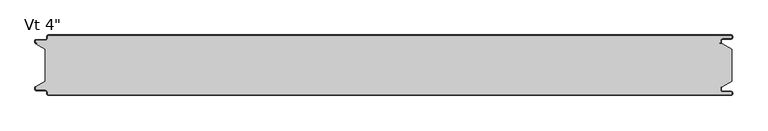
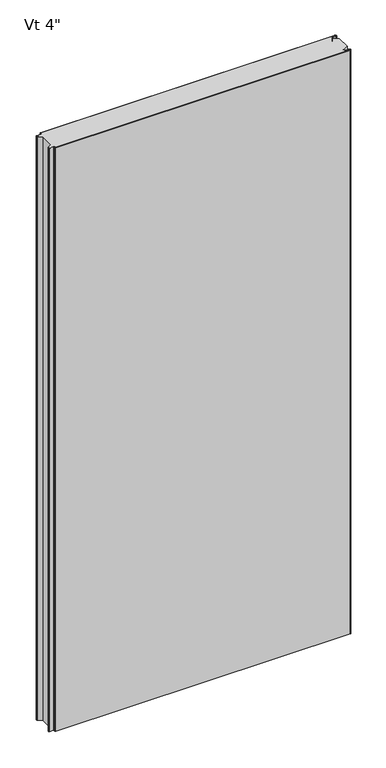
"""IFC4 building model written with IfcOpenShell, lengths in millimetres: plate geometry."""

from ifc_helpers import new_model, si_unit, frame, origin, place, context, project, spatial, polyline, circle_curve, source, transform, mapped, element, save
from ifc_brep_helpers import plane_surface, cylinder_surface, revolved_surface, advanced_brep


def plate_b617b0d5(model_context):
    return source(origin(), model_context, "Body", "AdvancedBrep", [
        advanced_brep(
        [(-572.4125501, -98.6227194, 2400.0), (-570.4352761, -100.5999935, 2400.0), (574.5475652, -100.6, 2400.0), (576.5248337, -98.6227315, 2400.0), (576.5248337, -97.5806329, 2400.0), (574.5475652, -95.6033643, 2400.0), (560.3591802, -95.6033643, 2400.0), (557.7713036, -93.0154878, 2400.0), (557.7713036, -88.6950697, 2400.0), (557.1628365, -88.1060762, 2400.0), (554.7857432, -88.1060762, 2400.0), (554.7857432, -87.1066023, 2400.0), (560.2280123, -87.1066023, 2400.0), (576.2625, -77.8490865, 2400.0), (576.2625, -23.7509179, 2400.0), (560.2280123, -14.4933977, 2400.0), (554.7857432, -14.4933977, 2400.0), (554.7857432, -13.4939238, 2400.0), (557.1628365, -13.4939238, 2400.0), (557.7713036, -12.9049303, 2400.0), (557.7713036, -8.5845122, 2400.0), (560.3591802, -5.9966357, 2400.0), (574.5475652, -5.9966357, 2400.0), (576.5248337, -4.0193671, 2400.0), (576.5248337, -2.9772685, 2400.0), (574.5475652, -1.0, 2400.0), (-570.4352761, -1.0, 2400.0), (-572.4125501, -2.9772806, 2400.0), (-572.4125501, -5.2691705, 2400.0), (-576.3898173, -9.2464377, 2400.0), (-591.9862417, -9.2464377, 2400.0), (-592.5741186, -9.8343146, 2400.0), (-592.5741186, -12.9058635, 2400.0), (-591.986242, -13.4937402, 2400.0), (-589.6312064, -13.4937402, 2400.0), (-589.6312064, -14.4937402, 2400.0), (-591.9207851, -14.4937402, 2400.0), (-576.2625, -23.7509135, 2400.0), (-576.2625, -77.8490865, 2400.0), (-591.9207851, -87.1062598, 2400.0), (-589.6312064, -87.1062598, 2400.0), (-589.6312064, -88.1062598, 2400.0), (-591.986242, -88.1062598, 2400.0), (-592.5741186, -88.6941365, 2400.0), (-592.5741186, -91.7656854, 2400.0), (-591.9862417, -92.3535623, 2400.0), (-576.3898173, -92.3535623, 2400.0), (-572.4125501, -96.3308295, 2400.0), (-572.4125501, -98.6227194, 0.0), (-572.4125501, -96.3308295, 0.0), (-576.3898173, -92.3535623, 0.0), (-591.9862417, -92.3535623, 0.0), (-592.5741186, -91.7656854, 0.0), (-592.5741186, -88.6941365, 0.0), (-591.986242, -88.1062598, 0.0), (-589.6312064, -88.1062598, 0.0), (-589.6312064, -87.1062598, 0.0), (-591.9207851, -87.1062598, 0.0), (-576.2625, -77.8490865, 0.0), (-576.2625, -23.7509179, 0.0), (-591.9207851, -14.4937402, 0.0), (-589.6312064, -14.4937402, 0.0), (-589.6312064, -13.4937402, 0.0), (-591.986242, -13.4937402, 0.0), (-592.5741186, -12.9058635, 0.0), (-592.5741186, -9.8343146, 0.0), (-591.9862417, -9.2464377, 0.0), (-576.3898173, -9.2464377, 0.0), (-572.4125501, -5.2691705, 0.0), (-572.4125501, -2.9772806, 0.0), (-570.4352761, -1.0000065, 0.0), (574.5475652, -1.0, 0.0), (576.5248337, -2.9772685, 0.0), (576.5248337, -4.0193671, 0.0), (574.5475652, -5.9966357, 0.0), (560.3591802, -5.9966357, 0.0), (557.7713036, -8.5845122, 0.0), (557.7713036, -12.9049303, 0.0), (557.1628365, -13.4939238, 0.0), (554.7857432, -13.4939238, 0.0), (554.7857432, -14.4933977, 0.0), (560.2280123, -14.4933977, 0.0), (576.2625, -23.7509135, 0.0), (576.2625, -77.8490865, 0.0), (560.2280123, -87.1066023, 0.0), (554.7857432, -87.1066023, 0.0), (554.7857432, -88.1060762, 0.0), (557.1628365, -88.1060762, 0.0), (557.7713036, -88.6950697, 0.0), (557.7713036, -93.0154878, 0.0), (560.3591802, -95.6033643, 0.0), (574.5475652, -95.6033643, 0.0), (576.5248337, -97.5806329, 0.0), (576.5248337, -98.6227315, 0.0), (574.5475652, -100.6, 0.0), (-570.4352761, -100.6, 0.0)],
        [
            (0, 1, circle_curve(frame((-570.4352761, -98.6227194, 2400.0), z_axis=(0.0, 0.0, 1.0), x_axis=(-1.0, 0.0, 0.0)), 1.977274)),
            (1, 2),
            (2, 3, circle_curve(frame((574.5475652, -98.6227315, 2400.0), z_axis=(0.0, 0.0, 1.0), x_axis=(-1.0, 0.0, 0.0)), 1.9772685)),
            (3, 4),
            (4, 5, circle_curve(frame((574.5475652, -97.5806329, 2400.0), z_axis=(0.0, 0.0, 1.0), x_axis=(-1.0, 0.0, 0.0)), 1.9772685)),
            (5, 6),
            (6, 7, circle_curve(frame((560.3591802, -93.0154878, 2400.0), z_axis=(0.0, 0.0, -1.0), x_axis=(-1.0, 0.0, 0.0)), 2.5878765)),
            (7, 8),
            (8, 9, circle_curve(frame((557.1819985, -88.6950697, 2400.0), z_axis=(0.0, 0.0, 1.0), x_axis=(-1.0, 0.0, 0.0)), 0.5893051)),
            (9, 10),
            (10, 11),
            (11, 12),
            (12, 13),
            (13, 14),
            (14, 15),
            (15, 16),
            (16, 17),
            (17, 18),
            (18, 19, circle_curve(frame((557.1819985, -12.9049303, 2400.0), z_axis=(0.0, 0.0, 1.0), x_axis=(0.0, 1.0, 0.0)), 0.5893051)),
            (19, 20),
            (20, 21, circle_curve(frame((560.3591802, -8.5845122, 2400.0), z_axis=(0.0, 0.0, -1.0), x_axis=(0.0, 1.0, 0.0)), 2.5878765)),
            (21, 22),
            (22, 23, circle_curve(frame((574.5475652, -4.0193671, 2400.0), z_axis=(0.0, 0.0, 1.0), x_axis=(0.0, 1.0, 0.0)), 1.9772685)),
            (23, 24),
            (24, 25, circle_curve(frame((574.5475652, -2.9772685, 2400.0), z_axis=(0.0, 0.0, 1.0), x_axis=(0.0, 1.0, 0.0)), 1.9772685)),
            (25, 26),
            (26, 27, circle_curve(frame((-570.4352761, -2.9772806, 2400.0), z_axis=(0.0, 0.0, 1.0), x_axis=(0.0, 1.0, 0.0)), 1.977274)),
            (27, 28),
            (28, 29, circle_curve(frame((-576.3898173, -5.2691705, 2400.0), z_axis=(0.0, 0.0, -1.0), x_axis=(0.0, 1.0, 0.0)), 3.9772671)),
            (29, 30),
            (30, 31, circle_curve(frame((-591.9862417, -9.8343146, 2400.0), z_axis=(0.0, 0.0, 1.0), x_axis=(0.0, 1.0, 0.0)), 0.5878769)),
            (31, 32),
            (32, 33, circle_curve(frame((-591.986242, -12.9058635, 2400.0), z_axis=(0.0, 0.0, 1.0), x_axis=(0.0, 1.0, 0.0)), 0.5878766)),
            (33, 34),
            (34, 35),
            (35, 36),
            (36, 37),
            (37, 38),
            (38, 39),
            (39, 40),
            (40, 41),
            (41, 42),
            (42, 43, circle_curve(frame((-591.986242, -88.6941365, 2400.0), z_axis=(0.0, 0.0, 1.0), x_axis=(-1.0, 0.0, 0.0)), 0.5878766)),
            (43, 44),
            (44, 45, circle_curve(frame((-591.9862417, -91.7656854, 2400.0), z_axis=(0.0, 0.0, 1.0), x_axis=(-1.0, 0.0, 0.0)), 0.5878769)),
            (45, 46),
            (46, 47, circle_curve(frame((-576.3898173, -96.3308295, 2400.0), z_axis=(0.0, 0.0, -1.0), x_axis=(-1.0, 0.0, 0.0)), 3.9772671)),
            (47, 0),
            (48, 49),
            (49, 50, circle_curve(frame((-576.3898173, -96.3308295, 0.0), z_axis=(0.0, 0.0, 1.0), x_axis=(-1.0, 0.0, 0.0)), 3.9772671)),
            (50, 51),
            (51, 52, circle_curve(frame((-591.9862417, -91.7656854, 0.0), z_axis=(0.0, 0.0, -1.0), x_axis=(-1.0, 0.0, 0.0)), 0.5878769)),
            (52, 53),
            (53, 54, circle_curve(frame((-591.986242, -88.6941365, 0.0), z_axis=(0.0, 0.0, -1.0), x_axis=(-1.0, 0.0, 0.0)), 0.5878766)),
            (54, 55),
            (55, 56),
            (56, 57),
            (57, 58),
            (58, 59),
            (59, 60),
            (60, 61),
            (61, 62),
            (62, 63),
            (63, 64, circle_curve(frame((-591.986242, -12.9058635, 0.0), z_axis=(0.0, 0.0, -1.0), x_axis=(0.0, 1.0, 0.0)), 0.5878766)),
            (64, 65),
            (65, 66, circle_curve(frame((-591.9862417, -9.8343146, 0.0), z_axis=(0.0, 0.0, -1.0), x_axis=(0.0, 1.0, 0.0)), 0.5878769)),
            (66, 67),
            (67, 68, circle_curve(frame((-576.3898173, -5.2691705, 0.0), z_axis=(0.0, 0.0, 1.0), x_axis=(0.0, 1.0, 0.0)), 3.9772671)),
            (68, 69),
            (69, 70, circle_curve(frame((-570.4352761, -2.9772806, 0.0), z_axis=(0.0, 0.0, -1.0), x_axis=(0.0, 1.0, 0.0)), 1.977274)),
            (70, 71),
            (71, 72, circle_curve(frame((574.5475652, -2.9772685, 0.0), z_axis=(0.0, 0.0, -1.0), x_axis=(0.0, 1.0, 0.0)), 1.9772685)),
            (72, 73),
            (73, 74, circle_curve(frame((574.5475652, -4.0193671, 0.0), z_axis=(0.0, 0.0, -1.0), x_axis=(0.0, 1.0, 0.0)), 1.9772685)),
            (74, 75),
            (75, 76, circle_curve(frame((560.3591802, -8.5845122, 0.0), z_axis=(0.0, 0.0, 1.0), x_axis=(0.0, 1.0, 0.0)), 2.5878765)),
            (76, 77),
            (77, 78, circle_curve(frame((557.1819985, -12.9049303, 0.0), z_axis=(0.0, 0.0, -1.0), x_axis=(0.0, 1.0, 0.0)), 0.5893051)),
            (78, 79),
            (79, 80),
            (80, 81),
            (81, 82),
            (82, 83),
            (83, 84),
            (84, 85),
            (85, 86),
            (86, 87),
            (87, 88, circle_curve(frame((557.1819985, -88.6950697, 0.0), z_axis=(0.0, 0.0, -1.0), x_axis=(-1.0, 0.0, 0.0)), 0.5893051)),
            (88, 89),
            (89, 90, circle_curve(frame((560.3591802, -93.0154878, 0.0), z_axis=(0.0, 0.0, 1.0), x_axis=(-1.0, 0.0, 0.0)), 2.5878765)),
            (90, 91),
            (91, 92, circle_curve(frame((574.5475652, -97.5806329, 0.0), z_axis=(0.0, 0.0, -1.0), x_axis=(-1.0, 0.0, 0.0)), 1.9772685)),
            (92, 93),
            (93, 94, circle_curve(frame((574.5475652, -98.6227315, 0.0), z_axis=(0.0, 0.0, -1.0), x_axis=(-1.0, 0.0, 0.0)), 1.9772685)),
            (94, 95),
            (95, 48, circle_curve(frame((-570.4352761, -98.6227194, 0.0), z_axis=(0.0, 0.0, -1.0), x_axis=(-1.0, 0.0, 0.0)), 1.977274)),
            (37, 59),
            (58, 38),
            (13, 83),
            (82, 14),
            (47, 49),
            (48, 0),
            (46, 50),
            (45, 51),
            (44, 52),
            (43, 53),
            (42, 54),
            (41, 55),
            (40, 56),
            (39, 57),
            (12, 84),
            (11, 85),
            (10, 86),
            (9, 87),
            (8, 88),
            (7, 89),
            (6, 90),
            (5, 91),
            (4, 92),
            (3, 93),
            (2, 94),
            (1, 95),
            (26, 70),
            (69, 27),
            (25, 71),
            (24, 72),
            (23, 73),
            (22, 74),
            (21, 75),
            (20, 76),
            (19, 77),
            (18, 78),
            (17, 79),
            (16, 80),
            (15, 81),
            (36, 60),
            (35, 61),
            (34, 62),
            (33, 63),
            (32, 64),
            (31, 65),
            (30, 66),
            (29, 67),
            (28, 68),
        ],
        [
            plane_surface(frame((0.0, -100.6, 2400.0), z_axis=(0.0, 0.0, 1.0), x_axis=(0.0, -1.0, 0.0))),
            plane_surface(frame((0.0, -100.6, 0.0), z_axis=(0.0, 0.0, -1.0), x_axis=(0.0, -1.0, 0.0))),
            plane_surface(frame((-576.2625, -77.8490865, 2400.0), z_axis=(-1.0, 0.0, 0.0), x_axis=(0.0, 0.0, -1.0))),
            plane_surface(frame((576.2625, -23.7509179, 2400.0), z_axis=(1.0, 0.0, 0.0), x_axis=(0.0, 0.0, -1.0))),
            plane_surface(frame((-572.4125501, -98.6227194, 2400.0), z_axis=(-1.0, 0.0, 0.0), x_axis=(0.0, 0.0, -1.0))),
            revolved_surface(polyline([(-580.3670844, -96.3308295, 0.0), (-580.3670844, -96.3308295, 2400.0)]), (-576.3898173, -96.3308295, 2400.0), (0.0, 0.0, -1.0)),
            plane_surface(frame((-576.3898173, -92.3535623, 2400.0), z_axis=(0.0, -1.0, 0.0), x_axis=(0.0, 0.0, -1.0))),
            cylinder_surface(frame((-591.9862417, -91.7656854, 2400.0), z_axis=(0.0, 0.0, 1.0), x_axis=(-1.0, 0.0, 0.0)), 0.5878769),
            plane_surface(frame((-592.5741186, -91.7656854, 2400.0), z_axis=(-1.0, 0.0, 0.0), x_axis=(0.0, 0.0, -1.0))),
            cylinder_surface(frame((-591.986242, -88.6941365, 2400.0), z_axis=(0.0, 0.0, 1.0), x_axis=(-1.0, 0.0, 0.0)), 0.5878766),
            plane_surface(frame((-591.986242, -88.1062598, 2400.0), z_axis=(0.0, 1.0, 0.0), x_axis=(0.0, 0.0, -1.0))),
            plane_surface(frame((-589.6312064, -88.1062598, 2400.0), z_axis=(-1.0, 0.0, 0.0), x_axis=(0.0, 0.0, -1.0))),
            plane_surface(frame((-589.6312064, -87.1062598, 2400.0), z_axis=(0.0, -1.0, 0.0), x_axis=(0.0, 0.0, -1.0))),
            plane_surface(frame((-591.9207851, -87.1062598, 2400.0), z_axis=(-0.5089147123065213, 0.860816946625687, 0.0), x_axis=(0.0, 0.0, -1.0))),
            plane_surface(frame((576.2625, -77.8490865, 2400.0), z_axis=(0.500000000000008, -0.866025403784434, 0.0), x_axis=(0.0, 0.0, -1.0))),
            plane_surface(frame((560.2280123, -87.1066023, 2400.0), z_axis=(0.0, -1.0, 0.0), x_axis=(0.0, 0.0, -1.0))),
            plane_surface(frame((554.7857432, -87.1066023, 2400.0), z_axis=(1.0, 0.0, 0.0), x_axis=(0.0, 0.0, -1.0))),
            plane_surface(frame((554.7857432, -88.1060762, 2400.0), z_axis=(0.0, 1.0, 0.0), x_axis=(0.0, 0.0, -1.0))),
            cylinder_surface(frame((557.1819985, -88.6950697, 2400.0), z_axis=(0.0, 0.0, 1.0), x_axis=(-1.0, 0.0, 0.0)), 0.5893051),
            plane_surface(frame((557.7713036, -88.6950697, 2400.0), z_axis=(1.0, 0.0, 0.0), x_axis=(0.0, 0.0, -1.0))),
            revolved_surface(polyline([(557.7713037, -93.0154878, 0.0), (557.7713037, -93.0154878, 2400.0)]), (560.3591802, -93.0154878, 2400.0), (0.0, 0.0, -1.0)),
            plane_surface(frame((560.3591802, -95.6033643, 2400.0), z_axis=(0.0, 1.0, 0.0), x_axis=(0.0, 0.0, -1.0))),
            cylinder_surface(frame((574.5475652, -97.5806329, 2400.0), z_axis=(0.0, 0.0, 1.0), x_axis=(-1.0, 0.0, 0.0)), 1.9772685),
            plane_surface(frame((576.5248337, -97.5806329, 2400.0), z_axis=(1.0, 0.0, 0.0), x_axis=(0.0, 0.0, -1.0))),
            cylinder_surface(frame((574.5475652, -98.6227315, 2400.0), z_axis=(0.0, 0.0, 1.0), x_axis=(-1.0, 0.0, 0.0)), 1.9772685),
            plane_surface(frame((574.5475652, -100.6, 2400.0), z_axis=(0.0, -1.0, 0.0), x_axis=(0.0, 0.0, -1.0))),
            cylinder_surface(frame((-570.4352761, -98.6227194, 2400.0), z_axis=(0.0, 0.0, 1.0), x_axis=(-1.0, 0.0, 0.0)), 1.977274),
            cylinder_surface(frame((-570.4352761, -2.9772806, 2400.0), z_axis=(0.0, 0.0, 1.0), x_axis=(0.0, 1.0, 0.0)), 1.977274),
            plane_surface(frame((-570.4352761, -1.0, 2400.0), z_axis=(0.0, 1.0, 0.0), x_axis=(0.0, 0.0, -1.0))),
            cylinder_surface(frame((574.5475652, -2.9772685, 2400.0), z_axis=(0.0, 0.0, 1.0), x_axis=(0.0, 1.0, 0.0)), 1.9772685),
            plane_surface(frame((576.5248337, -2.9772685, 2400.0), z_axis=(1.0, 0.0, 0.0), x_axis=(0.0, 0.0, -1.0))),
            cylinder_surface(frame((574.5475652, -4.0193671, 2400.0), z_axis=(0.0, 0.0, 1.0), x_axis=(0.0, 1.0, 0.0)), 1.9772685),
            plane_surface(frame((574.5475652, -5.9966357, 2400.0), z_axis=(0.0, -1.0, 0.0), x_axis=(0.0, 0.0, -1.0))),
            revolved_surface(polyline([(560.3591802, -5.996635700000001, 0.0), (560.3591802, -5.996635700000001, 2400.0)]), (560.3591802, -8.5845122, 2400.0), (0.0, 0.0, -1.0)),
            plane_surface(frame((557.7713036, -8.5845122, 2400.0), z_axis=(1.0, 0.0, 0.0), x_axis=(0.0, 0.0, -1.0))),
            cylinder_surface(frame((557.1819985, -12.9049303, 2400.0), z_axis=(0.0, 0.0, 1.0), x_axis=(0.0, 1.0, 0.0)), 0.5893051),
            plane_surface(frame((557.1628365, -13.4939238, 2400.0), z_axis=(0.0, -1.0, 0.0), x_axis=(0.0, 0.0, -1.0))),
            plane_surface(frame((554.7857432, -13.4939238, 2400.0), z_axis=(1.0, 0.0, 0.0), x_axis=(0.0, 0.0, -1.0))),
            plane_surface(frame((554.7857432, -14.4933977, 2400.0), z_axis=(0.0, 1.0, 0.0), x_axis=(0.0, 0.0, -1.0))),
            plane_surface(frame((560.2280123, -14.4933977, 2400.0), z_axis=(0.5000000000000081, 0.866025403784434, 0.0), x_axis=(0.0, 0.0, -1.0))),
            plane_surface(frame((-576.2625, -23.7509135, 2400.0), z_axis=(-0.5089147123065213, -0.860816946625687, 0.0), x_axis=(0.0, 0.0, -1.0))),
            plane_surface(frame((-591.9207851, -14.4937402, 2400.0), z_axis=(0.0, 1.0, 0.0), x_axis=(0.0, 0.0, -1.0))),
            plane_surface(frame((-589.6312064, -14.4937402, 2400.0), z_axis=(-1.0, 0.0, 0.0), x_axis=(0.0, 0.0, -1.0))),
            plane_surface(frame((-589.6312064, -13.4937402, 2400.0), z_axis=(0.0, -1.0, 0.0), x_axis=(0.0, 0.0, -1.0))),
            cylinder_surface(frame((-591.986242, -12.9058635, 2400.0), z_axis=(0.0, 0.0, 1.0), x_axis=(0.0, 1.0, 0.0)), 0.5878766),
            plane_surface(frame((-592.5741186, -12.9058635, 2400.0), z_axis=(-1.0, 0.0, 0.0), x_axis=(0.0, 0.0, -1.0))),
            cylinder_surface(frame((-591.9862417, -9.8343146, 2400.0), z_axis=(0.0, 0.0, 1.0), x_axis=(0.0, 1.0, 0.0)), 0.5878769),
            plane_surface(frame((-591.9862417, -9.2464377, 2400.0), z_axis=(0.0, 1.0, 0.0), x_axis=(0.0, 0.0, -1.0))),
            revolved_surface(polyline([(-576.3898173, -1.2919034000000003, 0.0), (-576.3898173, -1.2919034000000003, 2400.0)]), (-576.3898173, -5.2691705, 2400.0), (0.0, 0.0, -1.0)),
            plane_surface(frame((-572.4125501, -5.2691705, 2400.0), z_axis=(-1.0, 0.0, 0.0), x_axis=(0.0, 0.0, -1.0))),
        ],
        [
            (0, [[1, 2, 3, 4, 5, 6, 7, 8, 9, 10, 11, 12, 13, 14, 15, 16, 17, 18, 19, 20, 21, 22, 23, 24, 25, 26, 27, 28, 29, 30, 31, 32, 33, 34, 35, 36, 37, 38, 39, 40, 41, 42, 43, 44, 45, 46, 47, 48]]),
            (1, [[49, 50, 51, 52, 53, 54, 55, 56, 57, 58, 59, 60, 61, 62, 63, 64, 65, 66, 67, 68, 69, 70, 71, 72, 73, 74, 75, 76, 77, 78, 79, 80, 81, 82, 83, 84, 85, 86, 87, 88, 89, 90, 91, 92, 93, 94, 95, 96]]),
            (2, [[97, -59, 98, -38]]),
            (3, [[99, -83, 100, -14]]),
            (4, [[101, -49, 102, -48]]),
            (5, [[103, -50, -101, -47]]),
            (6, [[104, -51, -103, -46]]),
            (7, [[105, -52, -104, -45]]),
            (8, [[106, -53, -105, -44]]),
            (9, [[107, -54, -106, -43]]),
            (10, [[108, -55, -107, -42]]),
            (11, [[109, -56, -108, -41]]),
            (12, [[110, -57, -109, -40]]),
            (13, [[-98, -58, -110, -39]]),
            (14, [[111, -84, -99, -13]]),
            (15, [[112, -85, -111, -12]]),
            (16, [[113, -86, -112, -11]]),
            (17, [[114, -87, -113, -10]]),
            (18, [[115, -88, -114, -9]]),
            (19, [[116, -89, -115, -8]]),
            (20, [[117, -90, -116, -7]]),
            (21, [[118, -91, -117, -6]]),
            (22, [[119, -92, -118, -5]]),
            (23, [[120, -93, -119, -4]]),
            (24, [[121, -94, -120, -3]]),
            (25, [[122, -95, -121, -2]]),
            (26, [[-102, -96, -122, -1]]),
            (27, [[123, -70, 124, -27]]),
            (28, [[125, -71, -123, -26]]),
            (29, [[126, -72, -125, -25]]),
            (30, [[127, -73, -126, -24]]),
            (31, [[128, -74, -127, -23]]),
            (32, [[129, -75, -128, -22]]),
            (33, [[130, -76, -129, -21]]),
            (34, [[131, -77, -130, -20]]),
            (35, [[132, -78, -131, -19]]),
            (36, [[133, -79, -132, -18]]),
            (37, [[134, -80, -133, -17]]),
            (38, [[135, -81, -134, -16]]),
            (39, [[-100, -82, -135, -15]]),
            (40, [[136, -60, -97, -37]]),
            (41, [[137, -61, -136, -36]]),
            (42, [[138, -62, -137, -35]]),
            (43, [[139, -63, -138, -34]]),
            (44, [[140, -64, -139, -33]]),
            (45, [[141, -65, -140, -32]]),
            (46, [[142, -66, -141, -31]]),
            (47, [[143, -67, -142, -30]]),
            (48, [[144, -68, -143, -29]]),
            (49, [[-124, -69, -144, -28]]),
        ],
    ),
        advanced_brep(
        [(-572.4123937, -2.9776189, 2400.0), (-570.4354837, -1.0007088, 2400.0), (574.550337, -1.0007088, 2400.0), (576.5262182, -2.97659, 2400.0), (576.5262182, -4.019022, 2400.0), (574.5482568, -5.9969834, 2400.0), (560.3590971, -5.9969834, 2400.0), (557.7713971, -8.5846834, 2400.0), (557.7713971, -12.9049158, 2400.0), (557.1628599, -13.4939528, 2400.0), (554.7857432, -13.4939528, 2400.0), (554.7857432, -14.4933977, 2400.0), (557.1304042, -14.4933977, 2400.0), (558.7713036, -12.9049303, 2400.0), (558.7713036, -8.5845122, 2400.0), (560.3591801, -6.9966356, 2400.0), (574.5475652, -6.9966356, 2400.0), (577.5248337, -4.0193671, 2400.0), (577.5248337, -2.9772685, 2400.0), (574.5475652, 0.0, 2400.0), (-570.4352789, 0.0, 2400.0), (-573.4125474, -2.977286, 2400.0), (-573.4125474, -5.2691698, 2400.0), (-576.3898159, -8.2464384, 2400.0), (-591.9862419, -8.2464384, 2400.0), (-593.5741185, -9.8343149, 2400.0), (-593.5741185, -12.9058636, 2400.0), (-591.9862419, -14.4937401, 2400.0), (-589.6312064, -14.4937401, 2400.0), (-589.6312064, -13.4937365, 2400.0), (-591.9862374, -13.4937365, 2400.0), (-592.5741086, -12.9058654, 2400.0), (-592.5741086, -9.834334, 2400.0), (-591.9862514, -9.2464768, 2400.0), (-576.3897391, -9.2464768, 2400.0), (-572.4123937, -5.2691315, 2400.0), (-572.4123937, -2.9776189, 0.0), (-572.4123937, -5.2691315, 0.0), (-576.3897391, -9.2464768, 0.0), (-591.9862514, -9.2464768, 0.0), (-592.5741086, -9.834334, 0.0), (-592.5741086, -12.9058654, 0.0), (-591.9862374, -13.4937365, 0.0), (-589.6312064, -13.4937365, 0.0), (-589.6312064, -14.4937401, 0.0), (-591.9862419, -14.4937401, 0.0), (-593.5741185, -12.9058636, 0.0), (-593.5741185, -9.8343149, 0.0), (-591.9862419, -8.2464384, 0.0), (-576.3898159, -8.2464384, 0.0), (-573.4125474, -5.2691698, 0.0), (-573.4125474, -2.977286, 0.0), (-570.4352789, -1.75e-05, 0.0), (574.5475652, 0.0, 0.0), (577.5248337, -2.9772685, 0.0), (577.5248337, -4.0193671, 0.0), (574.5475652, -6.9966356, 0.0), (560.3591801, -6.9966356, 0.0), (558.7713036, -8.5845122, 0.0), (558.7713036, -12.9049303, 0.0), (557.1304042, -14.4933977, 0.0), (554.7857432, -14.4933977, 0.0), (554.7857432, -13.4939528, 0.0), (557.1628599, -13.4939528, 0.0), (557.7713971, -12.9049158, 0.0), (557.7713971, -8.5846834, 0.0), (560.3590971, -5.9969834, 0.0), (574.5482568, -5.9969834, 0.0), (576.5262182, -4.019022, 0.0), (576.5262182, -2.97659, 0.0), (574.550337, -1.0007088, 0.0), (-570.4354837, -1.0007088, 0.0)],
        [
            (0, 1, circle_curve(frame((-570.4354837, -2.9776189, 2400.0), z_axis=(0.0, 0.0, -1.0), x_axis=(0.0, 1.0, 0.0)), 1.9769101)),
            (1, 2),
            (2, 3, circle_curve(frame((574.550337, -2.97659, 2400.0), z_axis=(0.0, 0.0, -1.0), x_axis=(0.0, 1.0, 0.0)), 1.9758812)),
            (3, 4),
            (4, 5, circle_curve(frame((574.5482568, -4.019022, 2400.0), z_axis=(0.0, 0.0, -1.0), x_axis=(0.0, 1.0, 0.0)), 1.9779614)),
            (5, 6),
            (6, 7, circle_curve(frame((560.3590971, -8.5846834, 2400.0), z_axis=(0.0, 0.0, 1.0), x_axis=(0.0, 1.0, 0.0)), 2.5877)),
            (7, 8),
            (8, 9, circle_curve(frame((557.1820477, -12.9049158, 2400.0), z_axis=(0.0, 0.0, -1.0), x_axis=(0.0, 1.0, 0.0)), 0.5893495)),
            (9, 10),
            (10, 11),
            (11, 12),
            (12, 13, circle_curve(frame((557.1819985, -12.9049303, 2400.0), z_axis=(0.0, 0.0, 1.0), x_axis=(0.0, 1.0, 0.0)), 1.5893051)),
            (13, 14),
            (14, 15, circle_curve(frame((560.3591801, -8.5845122, 2400.0), z_axis=(0.0, 0.0, -1.0), x_axis=(0.0, 1.0, 0.0)), 1.5878765)),
            (15, 16),
            (16, 17, circle_curve(frame((574.5475652, -4.0193671, 2400.0), z_axis=(0.0, 0.0, 1.0), x_axis=(0.0, 1.0, 0.0)), 2.9772685)),
            (17, 18),
            (18, 19, circle_curve(frame((574.5475652, -2.9772685, 2400.0), z_axis=(0.0, 0.0, 1.0), x_axis=(0.0, 1.0, 0.0)), 2.9772685)),
            (19, 20),
            (20, 21, circle_curve(frame((-570.4352789, -2.977286, 2400.0), z_axis=(0.0, 0.0, 1.0), x_axis=(0.0, 1.0, 0.0)), 2.9772685)),
            (21, 22),
            (22, 23, circle_curve(frame((-576.3898159, -5.2691698, 2400.0), z_axis=(0.0, 0.0, -1.0), x_axis=(0.0, 1.0, 0.0)), 2.9772685)),
            (23, 24),
            (24, 25, circle_curve(frame((-591.9862419, -9.8343149, 2400.0), z_axis=(0.0, 0.0, 1.0), x_axis=(0.0, 1.0, 0.0)), 1.5878765)),
            (25, 26),
            (26, 27, circle_curve(frame((-591.9862419, -12.9058636, 2400.0), z_axis=(0.0, 0.0, 1.0), x_axis=(0.0, 1.0, 0.0)), 1.5878765)),
            (27, 28),
            (28, 29),
            (29, 30),
            (30, 31, circle_curve(frame((-591.9862374, -12.9058654, 2400.0), z_axis=(0.0, 0.0, -1.0), x_axis=(0.0, 1.0, 0.0)), 0.5878711)),
            (31, 32),
            (32, 33, circle_curve(frame((-591.9862514, -9.834334, 2400.0), z_axis=(0.0, 0.0, -1.0), x_axis=(0.0, 1.0, 0.0)), 0.5878572)),
            (33, 34),
            (34, 35, circle_curve(frame((-576.3897391, -5.2691315, 2400.0), z_axis=(0.0, 0.0, 1.0), x_axis=(0.0, 1.0, 0.0)), 3.9773454)),
            (35, 0),
            (36, 37),
            (37, 38, circle_curve(frame((-576.3897391, -5.2691315, 0.0), z_axis=(0.0, 0.0, -1.0), x_axis=(0.0, 1.0, 0.0)), 3.9773454)),
            (38, 39),
            (39, 40, circle_curve(frame((-591.9862514, -9.834334, 0.0), z_axis=(0.0, 0.0, 1.0), x_axis=(0.0, 1.0, 0.0)), 0.5878572)),
            (40, 41),
            (41, 42, circle_curve(frame((-591.9862374, -12.9058654, 0.0), z_axis=(0.0, 0.0, 1.0), x_axis=(0.0, 1.0, 0.0)), 0.5878711)),
            (42, 43),
            (43, 44),
            (44, 45),
            (45, 46, circle_curve(frame((-591.9862419, -12.9058636, 0.0), z_axis=(0.0, 0.0, -1.0), x_axis=(0.0, 1.0, 0.0)), 1.5878765)),
            (46, 47),
            (47, 48, circle_curve(frame((-591.9862419, -9.8343149, 0.0), z_axis=(0.0, 0.0, -1.0), x_axis=(0.0, 1.0, 0.0)), 1.5878765)),
            (48, 49),
            (49, 50, circle_curve(frame((-576.3898159, -5.2691698, 0.0), z_axis=(0.0, 0.0, 1.0), x_axis=(0.0, 1.0, 0.0)), 2.9772685)),
            (50, 51),
            (51, 52, circle_curve(frame((-570.4352789, -2.977286, 0.0), z_axis=(0.0, 0.0, -1.0), x_axis=(0.0, 1.0, 0.0)), 2.9772685)),
            (52, 53),
            (53, 54, circle_curve(frame((574.5475652, -2.9772685, 0.0), z_axis=(0.0, 0.0, -1.0), x_axis=(0.0, 1.0, 0.0)), 2.9772685)),
            (54, 55),
            (55, 56, circle_curve(frame((574.5475652, -4.0193671, 0.0), z_axis=(0.0, 0.0, -1.0), x_axis=(0.0, 1.0, 0.0)), 2.9772685)),
            (56, 57),
            (57, 58, circle_curve(frame((560.3591801, -8.5845122, 0.0), z_axis=(0.0, 0.0, 1.0), x_axis=(0.0, 1.0, 0.0)), 1.5878765)),
            (58, 59),
            (59, 60, circle_curve(frame((557.1819985, -12.9049303, 0.0), z_axis=(0.0, 0.0, -1.0), x_axis=(0.0, 1.0, 0.0)), 1.5893051)),
            (60, 61),
            (61, 62),
            (62, 63),
            (63, 64, circle_curve(frame((557.1820477, -12.9049158, 0.0), z_axis=(0.0, 0.0, 1.0), x_axis=(0.0, 1.0, 0.0)), 0.5893495)),
            (64, 65),
            (65, 66, circle_curve(frame((560.3590971, -8.5846834, 0.0), z_axis=(0.0, 0.0, -1.0), x_axis=(0.0, 1.0, 0.0)), 2.5877)),
            (66, 67),
            (67, 68, circle_curve(frame((574.5482568, -4.019022, 0.0), z_axis=(0.0, 0.0, 1.0), x_axis=(0.0, 1.0, 0.0)), 1.9779614)),
            (68, 69),
            (69, 70, circle_curve(frame((574.550337, -2.97659, 0.0), z_axis=(0.0, 0.0, 1.0), x_axis=(0.0, 1.0, 0.0)), 1.9758812)),
            (70, 71),
            (71, 36, circle_curve(frame((-570.4354837, -2.9776189, 0.0), z_axis=(0.0, 0.0, 1.0), x_axis=(0.0, 1.0, 0.0)), 1.9769101)),
            (35, 37),
            (36, 0),
            (34, 38),
            (33, 39),
            (32, 40),
            (31, 41),
            (30, 42),
            (29, 43),
            (28, 44),
            (27, 45),
            (26, 46),
            (25, 47),
            (24, 48),
            (23, 49),
            (22, 50),
            (21, 51),
            (20, 52),
            (19, 53),
            (18, 54),
            (17, 55),
            (16, 56),
            (15, 57),
            (14, 58),
            (13, 59),
            (12, 60),
            (11, 61),
            (10, 62),
            (9, 63),
            (8, 64),
            (7, 65),
            (6, 66),
            (5, 67),
            (4, 68),
            (3, 69),
            (2, 70),
            (1, 71),
        ],
        [
            plane_surface(frame((0.0, 0.0, 2400.0), z_axis=(0.0, 0.0, 1.0), x_axis=(0.0, 1.0, 0.0))),
            plane_surface(frame((0.0, 0.0, 0.0), z_axis=(0.0, 0.0, -1.0), x_axis=(0.0, 1.0, 0.0))),
            plane_surface(frame((-572.4123937, -2.9776189, 2400.0), z_axis=(1.0, 0.0, 0.0), x_axis=(0.0, 0.0, -1.0))),
            cylinder_surface(frame((-576.3897391, -5.2691315, 2400.0), z_axis=(0.0, 0.0, 1.0), x_axis=(0.0, 1.0, 0.0)), 3.9773454),
            plane_surface(frame((-576.3897391, -9.2464768, 2400.0), z_axis=(0.0, -1.0, 0.0), x_axis=(0.0, 0.0, -1.0))),
            revolved_surface(polyline([(-591.9862514, -9.2464768, 0.0), (-591.9862514, -9.2464768, 2400.0)]), (-591.9862514, -9.834334, 2400.0), (0.0, 0.0, -1.0)),
            plane_surface(frame((-592.5741086, -9.834334, 2400.0), z_axis=(1.0, 0.0, 0.0), x_axis=(0.0, 0.0, -1.0))),
            revolved_surface(polyline([(-591.9862374, -12.3179943, 0.0), (-591.9862374, -12.3179943, 2400.0)]), (-591.9862374, -12.9058654, 2400.0), (0.0, 0.0, -1.0)),
            plane_surface(frame((-591.9862374, -13.4937365, 2400.0), z_axis=(0.0, 1.0, 0.0), x_axis=(0.0, 0.0, -1.0))),
            plane_surface(frame((-589.6312064, -13.4937365, 2400.0), z_axis=(1.0, 0.0, 0.0), x_axis=(0.0, 0.0, -1.0))),
            plane_surface(frame((-589.6312064, -14.4937401, 2400.0), z_axis=(0.0, -1.0, 0.0), x_axis=(0.0, 0.0, -1.0))),
            cylinder_surface(frame((-591.9862419, -12.9058636, 2400.0), z_axis=(0.0, 0.0, 1.0), x_axis=(0.0, 1.0, 0.0)), 1.5878765),
            plane_surface(frame((-593.5741185, -12.9058636, 2400.0), z_axis=(-1.0, 0.0, 0.0), x_axis=(0.0, 0.0, -1.0))),
            cylinder_surface(frame((-591.9862419, -9.8343149, 2400.0), z_axis=(0.0, 0.0, 1.0), x_axis=(0.0, 1.0, 0.0)), 1.5878765),
            plane_surface(frame((-591.9862419, -8.2464384, 2400.0), z_axis=(0.0, 1.0, 0.0), x_axis=(0.0, 0.0, -1.0))),
            revolved_surface(polyline([(-576.3898159, -2.2919013, 0.0), (-576.3898159, -2.2919013, 2400.0)]), (-576.3898159, -5.2691698, 2400.0), (0.0, 0.0, -1.0)),
            plane_surface(frame((-573.4125474, -5.2691698, 2400.0), z_axis=(-1.0, 0.0, 0.0), x_axis=(0.0, 0.0, -1.0))),
            cylinder_surface(frame((-570.4352789, -2.977286, 2400.0), z_axis=(0.0, 0.0, 1.0), x_axis=(0.0, 1.0, 0.0)), 2.9772685),
            plane_surface(frame((-570.4352789, 0.0, 2400.0), z_axis=(0.0, 1.0, 0.0), x_axis=(0.0, 0.0, -1.0))),
            cylinder_surface(frame((574.5475652, -2.9772685, 2400.0), z_axis=(0.0, 0.0, 1.0), x_axis=(0.0, 1.0, 0.0)), 2.9772685),
            plane_surface(frame((577.5248337, -2.9772685, 2400.0), z_axis=(1.0, 0.0, 0.0), x_axis=(0.0, 0.0, -1.0))),
            cylinder_surface(frame((574.5475652, -4.0193671, 2400.0), z_axis=(0.0, 0.0, 1.0), x_axis=(0.0, 1.0, 0.0)), 2.9772685),
            plane_surface(frame((574.5475652, -6.9966356, 2400.0), z_axis=(0.0, -1.0, 0.0), x_axis=(0.0, 0.0, -1.0))),
            revolved_surface(polyline([(560.3591801, -6.996635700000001, 0.0), (560.3591801, -6.996635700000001, 2400.0)]), (560.3591801, -8.5845122, 2400.0), (0.0, 0.0, -1.0)),
            plane_surface(frame((558.7713036, -8.5845122, 2400.0), z_axis=(1.0, 0.0, 0.0), x_axis=(0.0, 0.0, -1.0))),
            cylinder_surface(frame((557.1819985, -12.9049303, 2400.0), z_axis=(0.0, 0.0, 1.0), x_axis=(0.0, 1.0, 0.0)), 1.5893051),
            plane_surface(frame((557.1304042, -14.4933977, 2400.0), z_axis=(0.0, -1.0, 0.0), x_axis=(0.0, 0.0, -1.0))),
            plane_surface(frame((554.7857432, -14.4933977, 2400.0), z_axis=(-1.0, 0.0, 0.0), x_axis=(0.0, 0.0, -1.0))),
            plane_surface(frame((554.7857432, -13.4939528, 2400.0), z_axis=(0.0, 1.0, 0.0), x_axis=(0.0, 0.0, -1.0))),
            revolved_surface(polyline([(557.1820477, -12.3155663, 0.0), (557.1820477, -12.3155663, 2400.0)]), (557.1820477, -12.9049158, 2400.0), (0.0, 0.0, -1.0)),
            plane_surface(frame((557.7713971, -12.9049158, 2400.0), z_axis=(-1.0, 0.0, 0.0), x_axis=(0.0, 0.0, -1.0))),
            cylinder_surface(frame((560.3590971, -8.5846834, 2400.0), z_axis=(0.0, 0.0, 1.0), x_axis=(0.0, 1.0, 0.0)), 2.5877),
            plane_surface(frame((560.3590971, -5.9969834, 2400.0), z_axis=(0.0, 1.0, 0.0), x_axis=(0.0, 0.0, -1.0))),
            revolved_surface(polyline([(574.5482568, -2.0410606, 0.0), (574.5482568, -2.0410606, 2400.0)]), (574.5482568, -4.019022, 2400.0), (0.0, 0.0, -1.0)),
            plane_surface(frame((576.5262182, -4.019022, 2400.0), z_axis=(-1.0, 0.0, 0.0), x_axis=(0.0, 0.0, -1.0))),
            revolved_surface(polyline([(574.550337, -1.0007088, 0.0), (574.550337, -1.0007088, 2400.0)]), (574.550337, -2.97659, 2400.0), (0.0, 0.0, -1.0)),
            plane_surface(frame((574.550337, -1.0007088, 2400.0), z_axis=(0.0, -1.0, 0.0), x_axis=(0.0, 0.0, -1.0))),
            revolved_surface(polyline([(-570.4354837, -1.0007088, 0.0), (-570.4354837, -1.0007088, 2400.0)]), (-570.4354837, -2.9776189, 2400.0), (0.0, 0.0, -1.0)),
        ],
        [
            (0, [[1, 2, 3, 4, 5, 6, 7, 8, 9, 10, 11, 12, 13, 14, 15, 16, 17, 18, 19, 20, 21, 22, 23, 24, 25, 26, 27, 28, 29, 30, 31, 32, 33, 34, 35, 36]]),
            (1, [[37, 38, 39, 40, 41, 42, 43, 44, 45, 46, 47, 48, 49, 50, 51, 52, 53, 54, 55, 56, 57, 58, 59, 60, 61, 62, 63, 64, 65, 66, 67, 68, 69, 70, 71, 72]]),
            (2, [[73, -37, 74, -36]]),
            (3, [[75, -38, -73, -35]]),
            (4, [[76, -39, -75, -34]]),
            (5, [[77, -40, -76, -33]]),
            (6, [[78, -41, -77, -32]]),
            (7, [[79, -42, -78, -31]]),
            (8, [[80, -43, -79, -30]]),
            (9, [[81, -44, -80, -29]]),
            (10, [[82, -45, -81, -28]]),
            (11, [[83, -46, -82, -27]]),
            (12, [[84, -47, -83, -26]]),
            (13, [[85, -48, -84, -25]]),
            (14, [[86, -49, -85, -24]]),
            (15, [[87, -50, -86, -23]]),
            (16, [[88, -51, -87, -22]]),
            (17, [[89, -52, -88, -21]]),
            (18, [[90, -53, -89, -20]]),
            (19, [[91, -54, -90, -19]]),
            (20, [[92, -55, -91, -18]]),
            (21, [[93, -56, -92, -17]]),
            (22, [[94, -57, -93, -16]]),
            (23, [[95, -58, -94, -15]]),
            (24, [[96, -59, -95, -14]]),
            (25, [[97, -60, -96, -13]]),
            (26, [[98, -61, -97, -12]]),
            (27, [[99, -62, -98, -11]]),
            (28, [[100, -63, -99, -10]]),
            (29, [[101, -64, -100, -9]]),
            (30, [[102, -65, -101, -8]]),
            (31, [[103, -66, -102, -7]]),
            (32, [[104, -67, -103, -6]]),
            (33, [[105, -68, -104, -5]]),
            (34, [[106, -69, -105, -4]]),
            (35, [[107, -70, -106, -3]]),
            (36, [[108, -71, -107, -2]]),
            (37, [[-74, -72, -108, -1]]),
        ],
    ),
        advanced_brep(
        [(-572.4123937, -98.6223811, 2400.0), (-572.4123937, -96.3308685, 2400.0), (-576.3897391, -92.3535232, 2400.0), (-591.9862514, -92.3535232, 2400.0), (-592.5741086, -91.765666, 2400.0), (-592.5741086, -88.6941346, 2400.0), (-591.9862374, -88.1062635, 2400.0), (-589.6312064, -88.1062635, 2400.0), (-589.6312064, -87.1062599, 2400.0), (-591.9862419, -87.1062599, 2400.0), (-593.5741185, -88.6941364, 2400.0), (-593.5741185, -91.7656851, 2400.0), (-591.9862419, -93.3535616, 2400.0), (-576.3898159, -93.3535616, 2400.0), (-573.4125474, -96.3308302, 2400.0), (-573.4125474, -98.622714, 2400.0), (-570.4352789, -101.5999825, 2400.0), (574.5475652, -101.6, 2400.0), (577.5248337, -98.6227315, 2400.0), (577.5248337, -97.5806329, 2400.0), (574.5475652, -94.6033644, 2400.0), (560.3591801, -94.6033644, 2400.0), (558.7713036, -93.0154878, 2400.0), (558.7713036, -88.6950697, 2400.0), (557.1304042, -87.1066023, 2400.0), (554.7857432, -87.1066023, 2400.0), (554.7857432, -88.1060472, 2400.0), (557.1628599, -88.1060472, 2400.0), (557.7713971, -88.6950842, 2400.0), (557.7713971, -93.0153166, 2400.0), (560.3590971, -95.6030166, 2400.0), (574.5482568, -95.6030166, 2400.0), (576.5262182, -97.580978, 2400.0), (576.5262182, -98.62341, 2400.0), (574.550337, -100.5992912, 2400.0), (-570.4354837, -100.5992912, 2400.0), (-572.4123937, -98.6223811, 0.0), (-570.4354837, -100.5992912, 0.0), (574.550337, -100.5992912, 0.0), (576.5262182, -98.62341, 0.0), (576.5262182, -97.580978, 0.0), (574.5482568, -95.6030166, 0.0), (560.3590971, -95.6030166, 0.0), (557.7713971, -93.0153166, 0.0), (557.7713971, -88.6950842, 0.0), (557.1628599, -88.1060472, 0.0), (554.7857432, -88.1060472, 0.0), (554.7857432, -87.1066023, 0.0), (557.1304042, -87.1066023, 0.0), (558.7713036, -88.6950697, 0.0), (558.7713036, -93.0154878, 0.0), (560.3591801, -94.6033644, 0.0), (574.5475652, -94.6033644, 0.0), (577.5248337, -97.5806329, 0.0), (577.5248337, -98.6227315, 0.0), (574.5475652, -101.6, 0.0), (-570.4352789, -101.6, 0.0), (-573.4125474, -98.622714, 0.0), (-573.4125474, -96.3308302, 0.0), (-576.3898159, -93.3535616, 0.0), (-591.9862419, -93.3535616, 0.0), (-593.5741185, -91.7656851, 0.0), (-593.5741185, -88.6941364, 0.0), (-591.9862419, -87.1062599, 0.0), (-589.6312064, -87.1062599, 0.0), (-589.6312064, -88.1062635, 0.0), (-591.9862374, -88.1062635, 0.0), (-592.5741086, -88.6941346, 0.0), (-592.5741086, -91.765666, 0.0), (-591.9862514, -92.3535232, 0.0), (-576.3897391, -92.3535232, 0.0), (-572.4123937, -96.3308685, 0.0)],
        [
            (0, 1),
            (1, 2, circle_curve(frame((-576.3897391, -96.3308685, 2400.0), z_axis=(0.0, 0.0, 1.0), x_axis=(-1.0, 0.0, 0.0)), 3.9773454)),
            (2, 3),
            (3, 4, circle_curve(frame((-591.9862514, -91.765666, 2400.0), z_axis=(0.0, 0.0, -1.0), x_axis=(-1.0, 0.0, 0.0)), 0.5878572)),
            (4, 5),
            (5, 6, circle_curve(frame((-591.9862374, -88.6941346, 2400.0), z_axis=(0.0, 0.0, -1.0), x_axis=(-1.0, 0.0, 0.0)), 0.5878711)),
            (6, 7),
            (7, 8),
            (8, 9),
            (9, 10, circle_curve(frame((-591.9862419, -88.6941364, 2400.0), z_axis=(0.0, 0.0, 1.0), x_axis=(-1.0, 0.0, 0.0)), 1.5878765)),
            (10, 11),
            (11, 12, circle_curve(frame((-591.9862419, -91.7656851, 2400.0), z_axis=(0.0, 0.0, 1.0), x_axis=(-1.0, 0.0, 0.0)), 1.5878765)),
            (12, 13),
            (13, 14, circle_curve(frame((-576.3898159, -96.3308302, 2400.0), z_axis=(0.0, 0.0, -1.0), x_axis=(-1.0, 0.0, 0.0)), 2.9772685)),
            (14, 15),
            (15, 16, circle_curve(frame((-570.4352789, -98.622714, 2400.0), z_axis=(0.0, 0.0, 1.0), x_axis=(-1.0, 0.0, 0.0)), 2.9772685)),
            (16, 17),
            (17, 18, circle_curve(frame((574.5475652, -98.6227315, 2400.0), z_axis=(0.0, 0.0, 1.0), x_axis=(-1.0, 0.0, 0.0)), 2.9772685)),
            (18, 19),
            (19, 20, circle_curve(frame((574.5475652, -97.5806329, 2400.0), z_axis=(0.0, 0.0, 1.0), x_axis=(-1.0, 0.0, 0.0)), 2.9772685)),
            (20, 21),
            (21, 22, circle_curve(frame((560.3591801, -93.0154878, 2400.0), z_axis=(0.0, 0.0, -1.0), x_axis=(-1.0, 0.0, 0.0)), 1.5878765)),
            (22, 23),
            (23, 24, circle_curve(frame((557.1819985, -88.6950697, 2400.0), z_axis=(0.0, 0.0, 1.0), x_axis=(-1.0, 0.0, 0.0)), 1.5893051)),
            (24, 25),
            (25, 26),
            (26, 27),
            (27, 28, circle_curve(frame((557.1820477, -88.6950842, 2400.0), z_axis=(0.0, 0.0, -1.0), x_axis=(-1.0, 0.0, 0.0)), 0.5893495)),
            (28, 29),
            (29, 30, circle_curve(frame((560.3590971, -93.0153166, 2400.0), z_axis=(0.0, 0.0, 1.0), x_axis=(-1.0, 0.0, 0.0)), 2.5877)),
            (30, 31),
            (31, 32, circle_curve(frame((574.5482568, -97.580978, 2400.0), z_axis=(0.0, 0.0, -1.0), x_axis=(-1.0, 0.0, 0.0)), 1.9779614)),
            (32, 33),
            (33, 34, circle_curve(frame((574.550337, -98.62341, 2400.0), z_axis=(0.0, 0.0, -1.0), x_axis=(-1.0, 0.0, 0.0)), 1.9758812)),
            (34, 35),
            (35, 0, circle_curve(frame((-570.4354837, -98.6223811, 2400.0), z_axis=(0.0, 0.0, -1.0), x_axis=(-1.0, 0.0, 0.0)), 1.9769101)),
            (36, 37, circle_curve(frame((-570.4354837, -98.6223811, 0.0), z_axis=(0.0, 0.0, 1.0), x_axis=(-1.0, 0.0, 0.0)), 1.9769101)),
            (37, 38),
            (38, 39, circle_curve(frame((574.550337, -98.62341, 0.0), z_axis=(0.0, 0.0, 1.0), x_axis=(-1.0, 0.0, 0.0)), 1.9758812)),
            (39, 40),
            (40, 41, circle_curve(frame((574.5482568, -97.580978, 0.0), z_axis=(0.0, 0.0, 1.0), x_axis=(-1.0, 0.0, 0.0)), 1.9779614)),
            (41, 42),
            (42, 43, circle_curve(frame((560.3590971, -93.0153166, 0.0), z_axis=(0.0, 0.0, -1.0), x_axis=(-1.0, 0.0, 0.0)), 2.5877)),
            (43, 44),
            (44, 45, circle_curve(frame((557.1820477, -88.6950842, 0.0), z_axis=(0.0, 0.0, 1.0), x_axis=(-1.0, 0.0, 0.0)), 0.5893495)),
            (45, 46),
            (46, 47),
            (47, 48),
            (48, 49, circle_curve(frame((557.1819985, -88.6950697, 0.0), z_axis=(0.0, 0.0, -1.0), x_axis=(-1.0, 0.0, 0.0)), 1.5893051)),
            (49, 50),
            (50, 51, circle_curve(frame((560.3591801, -93.0154878, 0.0), z_axis=(0.0, 0.0, 1.0), x_axis=(-1.0, 0.0, 0.0)), 1.5878765)),
            (51, 52),
            (52, 53, circle_curve(frame((574.5475652, -97.5806329, 0.0), z_axis=(0.0, 0.0, -1.0), x_axis=(-1.0, 0.0, 0.0)), 2.9772685)),
            (53, 54),
            (54, 55, circle_curve(frame((574.5475652, -98.6227315, 0.0), z_axis=(0.0, 0.0, -1.0), x_axis=(-1.0, 0.0, 0.0)), 2.9772685)),
            (55, 56),
            (56, 57, circle_curve(frame((-570.4352789, -98.622714, 0.0), z_axis=(0.0, 0.0, -1.0), x_axis=(-1.0, 0.0, 0.0)), 2.9772685)),
            (57, 58),
            (58, 59, circle_curve(frame((-576.3898159, -96.3308302, 0.0), z_axis=(0.0, 0.0, 1.0), x_axis=(-1.0, 0.0, 0.0)), 2.9772685)),
            (59, 60),
            (60, 61, circle_curve(frame((-591.9862419, -91.7656851, 0.0), z_axis=(0.0, 0.0, -1.0), x_axis=(-1.0, 0.0, 0.0)), 1.5878765)),
            (61, 62),
            (62, 63, circle_curve(frame((-591.9862419, -88.6941364, 0.0), z_axis=(0.0, 0.0, -1.0), x_axis=(-1.0, 0.0, 0.0)), 1.5878765)),
            (63, 64),
            (64, 65),
            (65, 66),
            (66, 67, circle_curve(frame((-591.9862374, -88.6941346, 0.0), z_axis=(0.0, 0.0, 1.0), x_axis=(-1.0, 0.0, 0.0)), 0.5878711)),
            (67, 68),
            (68, 69, circle_curve(frame((-591.9862514, -91.765666, 0.0), z_axis=(0.0, 0.0, 1.0), x_axis=(-1.0, 0.0, 0.0)), 0.5878572)),
            (69, 70),
            (70, 71, circle_curve(frame((-576.3897391, -96.3308685, 0.0), z_axis=(0.0, 0.0, -1.0), x_axis=(-1.0, 0.0, 0.0)), 3.9773454)),
            (71, 36),
            (23, 49),
            (48, 24),
            (22, 50),
            (21, 51),
            (20, 52),
            (19, 53),
            (17, 55),
            (54, 18),
            (32, 40),
            (39, 33),
            (38, 34),
            (16, 56),
            (37, 35),
            (36, 0),
            (71, 1),
            (70, 2),
            (69, 3),
            (4, 68),
            (67, 5),
            (66, 6),
            (65, 7),
            (64, 8),
            (63, 9),
            (62, 10),
            (61, 11),
            (60, 12),
            (59, 13),
            (58, 14),
            (57, 15),
            (31, 41),
            (30, 42),
            (29, 43),
            (28, 44),
            (27, 45),
            (26, 46),
            (25, 47),
        ],
        [
            plane_surface(frame((0.0, -101.6, 2400.0), z_axis=(0.0, 0.0, 1.0), x_axis=(0.0, -1.0, 0.0))),
            plane_surface(frame((0.0, -101.6, 0.0), z_axis=(0.0, 0.0, -1.0), x_axis=(0.0, -1.0, 0.0))),
            cylinder_surface(frame((557.1819985, -88.6950697, 2400.0), z_axis=(0.0, 0.0, 1.0), x_axis=(-1.0, 0.0, 0.0)), 1.5893051),
            plane_surface(frame((558.7713036, -88.6950697, 2400.0), z_axis=(1.0, 0.0, 0.0), x_axis=(0.0, 0.0, -1.0))),
            revolved_surface(polyline([(558.7713036, -93.0154878, 0.0), (558.7713036, -93.0154878, 2400.0)]), (560.3591801, -93.0154878, 2400.0), (0.0, 0.0, -1.0)),
            plane_surface(frame((560.3591801, -94.6033644, 2400.0), z_axis=(0.0, 1.0, 0.0), x_axis=(0.0, 0.0, -1.0))),
            cylinder_surface(frame((574.5475652, -97.5806329, 2400.0), z_axis=(0.0, 0.0, 1.0), x_axis=(-1.0, 0.0, 0.0)), 2.9772685),
            cylinder_surface(frame((574.5475652, -98.6227315, 2400.0), z_axis=(0.0, 0.0, 1.0), x_axis=(-1.0, 0.0, 0.0)), 2.9772685),
            plane_surface(frame((576.5262182, -98.62341, 2400.0), z_axis=(-1.0, 0.0, 0.0), x_axis=(0.0, 0.0, -1.0))),
            plane_surface(frame((577.5248337, -97.5806329, 2400.0), z_axis=(1.0, 0.0, 0.0), x_axis=(0.0, 0.0, -1.0))),
            revolved_surface(polyline([(572.5744558, -98.62341, 0.0), (572.5744558, -98.62341, 2400.0)]), (574.550337, -98.62341, 2400.0), (0.0, 0.0, -1.0)),
            plane_surface(frame((574.5475652, -101.6, 2400.0), z_axis=(0.0, -1.0, 0.0), x_axis=(0.0, 0.0, -1.0))),
            plane_surface(frame((-570.4354837, -100.5992912, 2400.0), z_axis=(0.0, 1.0, 0.0), x_axis=(0.0, 0.0, -1.0))),
            revolved_surface(polyline([(-572.4123938, -98.6223811, 0.0), (-572.4123938, -98.6223811, 2400.0)]), (-570.4354837, -98.6223811, 2400.0), (0.0, 0.0, -1.0)),
            plane_surface(frame((-572.4123937, -96.3308685, 2400.0), z_axis=(1.0, 0.0, 0.0), x_axis=(0.0, 0.0, -1.0))),
            cylinder_surface(frame((-576.3897391, -96.3308685, 2400.0), z_axis=(0.0, 0.0, 1.0), x_axis=(-1.0, 0.0, 0.0)), 3.9773454),
            plane_surface(frame((-591.9862514, -92.3535232, 2400.0), z_axis=(0.0, 1.0, 0.0), x_axis=(0.0, 0.0, -1.0))),
            plane_surface(frame((-592.5741086, -88.6941346, 2400.0), z_axis=(1.0, 0.0, 0.0), x_axis=(0.0, 0.0, -1.0))),
            revolved_surface(polyline([(-592.5741085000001, -88.6941346, 0.0), (-592.5741085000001, -88.6941346, 2400.0)]), (-591.9862374, -88.6941346, 2400.0), (0.0, 0.0, -1.0)),
            plane_surface(frame((-589.6312064, -88.1062635, 2400.0), z_axis=(0.0, -1.0, 0.0), x_axis=(0.0, 0.0, -1.0))),
            plane_surface(frame((-589.6312064, -87.1062599, 2400.0), z_axis=(1.0, 0.0, 0.0), x_axis=(0.0, 0.0, -1.0))),
            plane_surface(frame((-591.9862419, -87.1062599, 2400.0), z_axis=(0.0, 1.0, 0.0), x_axis=(0.0, 0.0, -1.0))),
            cylinder_surface(frame((-591.9862419, -88.6941364, 2400.0), z_axis=(0.0, 0.0, 1.0), x_axis=(-1.0, 0.0, 0.0)), 1.5878765),
            plane_surface(frame((-593.5741185, -91.7656851, 2400.0), z_axis=(-1.0, 0.0, 0.0), x_axis=(0.0, 0.0, -1.0))),
            cylinder_surface(frame((-591.9862419, -91.7656851, 2400.0), z_axis=(0.0, 0.0, 1.0), x_axis=(-1.0, 0.0, 0.0)), 1.5878765),
            plane_surface(frame((-576.3898159, -93.3535616, 2400.0), z_axis=(0.0, -1.0, 0.0), x_axis=(0.0, 0.0, -1.0))),
            revolved_surface(polyline([(-579.3670844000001, -96.3308302, 0.0), (-579.3670844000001, -96.3308302, 2400.0)]), (-576.3898159, -96.3308302, 2400.0), (0.0, 0.0, -1.0)),
            plane_surface(frame((-573.4125474, -98.622714, 2400.0), z_axis=(-1.0, 0.0, 0.0), x_axis=(0.0, 0.0, -1.0))),
            cylinder_surface(frame((-570.4352789, -98.622714, 2400.0), z_axis=(0.0, 0.0, 1.0), x_axis=(-1.0, 0.0, 0.0)), 2.9772685),
            revolved_surface(polyline([(-592.5741086, -91.765666, 0.0), (-592.5741086, -91.765666, 2400.0)]), (-591.9862514, -91.765666, 2400.0), (0.0, 0.0, -1.0)),
            revolved_surface(polyline([(572.5702954, -97.580978, 0.0), (572.5702954, -97.580978, 2400.0)]), (574.5482568, -97.580978, 2400.0), (0.0, 0.0, -1.0)),
            plane_surface(frame((574.5482568, -95.6030166, 2400.0), z_axis=(0.0, -1.0, 0.0), x_axis=(0.0, 0.0, -1.0))),
            cylinder_surface(frame((560.3590971, -93.0153166, 2400.0), z_axis=(0.0, 0.0, 1.0), x_axis=(-1.0, 0.0, 0.0)), 2.5877),
            plane_surface(frame((557.7713971, -93.0153166, 2400.0), z_axis=(-1.0, 0.0, 0.0), x_axis=(0.0, 0.0, -1.0))),
            revolved_surface(polyline([(556.5926982, -88.6950842, 0.0), (556.5926982, -88.6950842, 2400.0)]), (557.1820477, -88.6950842, 2400.0), (0.0, 0.0, -1.0)),
            plane_surface(frame((557.1628599, -88.1060472, 2400.0), z_axis=(0.0, -1.0, 0.0), x_axis=(0.0, 0.0, -1.0))),
            plane_surface(frame((554.7857432, -88.1060472, 2400.0), z_axis=(-1.0, 0.0, 0.0), x_axis=(0.0, 0.0, -1.0))),
            plane_surface(frame((554.7857432, -87.1066023, 2400.0), z_axis=(0.0, 1.0, 0.0), x_axis=(0.0, 0.0, -1.0))),
        ],
        [
            (0, [[1, 2, 3, 4, 5, 6, 7, 8, 9, 10, 11, 12, 13, 14, 15, 16, 17, 18, 19, 20, 21, 22, 23, 24, 25, 26, 27, 28, 29, 30, 31, 32, 33, 34, 35, 36]]),
            (1, [[37, 38, 39, 40, 41, 42, 43, 44, 45, 46, 47, 48, 49, 50, 51, 52, 53, 54, 55, 56, 57, 58, 59, 60, 61, 62, 63, 64, 65, 66, 67, 68, 69, 70, 71, 72]]),
            (2, [[73, -49, 74, -24]]),
            (3, [[75, -50, -73, -23]]),
            (4, [[76, -51, -75, -22]]),
            (5, [[77, -52, -76, -21]]),
            (6, [[78, -53, -77, -20]]),
            (7, [[79, -55, 80, -18]]),
            (8, [[81, -40, 82, -33]]),
            (9, [[-80, -54, -78, -19]]),
            (10, [[-82, -39, 83, -34]]),
            (11, [[84, -56, -79, -17]]),
            (12, [[-83, -38, 85, -35]]),
            (13, [[-85, -37, 86, -36]]),
            (14, [[-86, -72, 87, -1]]),
            (15, [[-87, -71, 88, -2]]),
            (16, [[-88, -70, 89, -3]]),
            (17, [[90, -68, 91, -5]]),
            (18, [[-91, -67, 92, -6]]),
            (19, [[-92, -66, 93, -7]]),
            (20, [[-93, -65, 94, -8]]),
            (21, [[-94, -64, 95, -9]]),
            (22, [[-95, -63, 96, -10]]),
            (23, [[-96, -62, 97, -11]]),
            (24, [[-97, -61, 98, -12]]),
            (25, [[-98, -60, 99, -13]]),
            (26, [[-99, -59, 100, -14]]),
            (27, [[-100, -58, 101, -15]]),
            (28, [[-101, -57, -84, -16]]),
            (29, [[-89, -69, -90, -4]]),
            (30, [[102, -41, -81, -32]]),
            (31, [[103, -42, -102, -31]]),
            (32, [[104, -43, -103, -30]]),
            (33, [[105, -44, -104, -29]]),
            (34, [[106, -45, -105, -28]]),
            (35, [[107, -46, -106, -27]]),
            (36, [[108, -47, -107, -26]]),
            (37, [[-74, -48, -108, -25]]),
        ],
    ),
    ])


if __name__ == "__main__":
    model = new_model("IFC4")
    model_context = context("Model", 3, world=origin())
    ifc_project = project(units=[si_unit("LENGTHUNIT", "METRE", prefix="MILLI")], contexts=[model_context])
    site = spatial("IfcSite", under=ifc_project)
    building = spatial("IfcBuilding", under=site)
    placement = place(None, origin())
    plate_shape = plate_b617b0d5(model_context)
    element("IfcPlate", 1, ObjectType="KIP-SLI-FLI-R19-CP-Vt-FL_FL : Vt 4\"", at=placement, inside=building, context=model_context, shape_type="MappedRepresentation", body=[
        mapped(plate_shape, transform((0.0, 0.0, 0.0), x_axis=(1.0, 0.0, 0.0), y_axis=(0.0, 1.0, 0.0), z_axis=(0.0, 0.0, 1.0))),
    ])
    save(model, "model.ifc")
